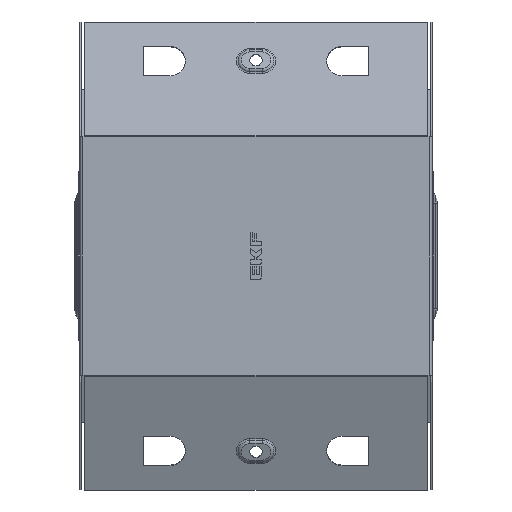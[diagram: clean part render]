
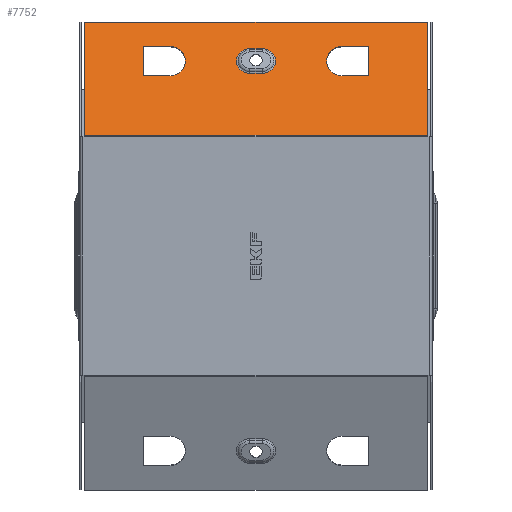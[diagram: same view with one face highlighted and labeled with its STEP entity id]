
A CAD part, front view. The second image highlights one B-rep face of the part: STEP entity #7752.
In plain terms, the highlighted planar face has unit normal (0, -0.924, 0.383).
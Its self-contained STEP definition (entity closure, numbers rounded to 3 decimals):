
#31 = AXIS2_PLACEMENT_3D ( 'NONE', #6695, #9977, #11104 ) ;
#250 = FACE_BOUND ( 'NONE', #3976, .T. ) ;
#313 = VECTOR ( 'NONE', #9202, 1000. ) ;
#352 = VERTEX_POINT ( 'NONE', #10188 ) ;
#440 = EDGE_CURVE ( 'NONE', #13589, #6767, #4740, .T. ) ;
#492 = CARTESIAN_POINT ( 'NONE',  ( 49., -86.629, 102.286 ) ) ;
#763 = EDGE_CURVE ( 'NONE', #11737, #6292, #13881, .T. ) ;
#840 = AXIS2_PLACEMENT_3D ( 'NONE', #4606, #1292, #11478 ) ;
#1094 = EDGE_CURVE ( 'NONE', #5976, #12857, #8048, .T. ) ;
#1157 = CIRCLE ( 'NONE', #840, 7.598 ) ;
#1292 = DIRECTION ( 'NONE',  ( 0., 0.924, -0.383 ) ) ;
#1329 = VERTEX_POINT ( 'NONE', #7681 ) ;
#1405 = VERTEX_POINT ( 'NONE', #10185 ) ;
#1477 = FACE_BOUND ( 'NONE', #14529, .T. ) ;
#1623 = CARTESIAN_POINT ( 'NONE',  ( -3.5, -86.093, 103.581 ) ) ;
#1688 = DIRECTION ( 'NONE',  ( -1., 0., 0. ) ) ;
#1727 = VECTOR ( 'NONE', #10526, 1000. ) ;
#1765 = EDGE_CURVE ( 'NONE', #10249, #13307, #1157, .T. ) ;
#1845 = VECTOR ( 'NONE', #5538, 1000. ) ;
#1861 = VECTOR ( 'NONE', #3871, 1000. ) ;
#1866 = AXIS2_PLACEMENT_3D ( 'NONE', #11805, #14055, #14014 ) ;
#1907 = CARTESIAN_POINT ( 'NONE',  ( 97.299, -100.663, 68.406 ) ) ;
#2024 = CARTESIAN_POINT ( 'NONE',  ( -64., -79.741, 118.916 ) ) ;
#2111 = ORIENTED_EDGE ( 'NONE', *, *, #7702, .T. ) ;
#2123 = DIRECTION ( 'NONE',  ( -1., 0., 0. ) ) ;
#2456 = CARTESIAN_POINT ( 'NONE',  ( 64., -79.741, 118.916 ) ) ;
#2549 = CARTESIAN_POINT ( 'NONE',  ( -64., -79.741, 118.916 ) ) ;
#3084 = EDGE_CURVE ( 'NONE', #352, #10249, #8025, .T. ) ;
#3211 = VECTOR ( 'NONE', #9547, 1000. ) ;
#3231 = CARTESIAN_POINT ( 'NONE',  ( -49., -79.741, 118.916 ) ) ;
#3474 = ORIENTED_EDGE ( 'NONE', *, *, #7682, .T. ) ;
#3683 = VERTEX_POINT ( 'NONE', #2024 ) ;
#3871 = DIRECTION ( 'NONE',  ( -1., 0., 0. ) ) ;
#3907 = LINE ( 'NONE', #4664, #14533 ) ;
#3976 = EDGE_LOOP ( 'NONE', ( #4292, #14145, #7901, #7553 ) ) ;
#4223 = DIRECTION ( 'NONE',  ( 0., 0.924, -0.383 ) ) ;
#4292 = ORIENTED_EDGE ( 'NONE', *, *, #12002, .T. ) ;
#4342 = CARTESIAN_POINT ( 'NONE',  ( 98.2, -74.001, 132.774 ) ) ;
#4394 = CARTESIAN_POINT ( 'NONE',  ( 49., -79.741, 118.916 ) ) ;
#4403 = LINE ( 'NONE', #5396, #10084 ) ;
#4606 = CARTESIAN_POINT ( 'NONE',  ( -3.5, -83.185, 110.601 ) ) ;
#4664 = CARTESIAN_POINT ( 'NONE',  ( 3.5, -80.277, 117.621 ) ) ;
#4740 = LINE ( 'NONE', #4846, #1727 ) ;
#4846 = CARTESIAN_POINT ( 'NONE',  ( 64., -79.741, 118.916 ) ) ;
#5015 = CARTESIAN_POINT ( 'NONE',  ( 3.5, -86.093, 103.581 ) ) ;
#5019 = VECTOR ( 'NONE', #1688, 1000. ) ;
#5037 = FACE_BOUND ( 'NONE', #8479, .T. ) ;
#5157 = CARTESIAN_POINT ( 'NONE',  ( 97.299, -74.001, 132.774 ) ) ;
#5219 = VECTOR ( 'NONE', #6571, 1000. ) ;
#5319 = DIRECTION ( 'NONE',  ( 0., 0.383, 0.924 ) ) ;
#5396 = CARTESIAN_POINT ( 'NONE',  ( 97.299, -100.864, 67.921 ) ) ;
#5488 = VERTEX_POINT ( 'NONE', #3231 ) ;
#5538 = DIRECTION ( 'NONE',  ( 1., 0., 0. ) ) ;
#5706 = LINE ( 'NONE', #9572, #13848 ) ;
#5922 = DIRECTION ( 'NONE',  ( 0., -0.383, -0.924 ) ) ;
#5976 = VERTEX_POINT ( 'NONE', #1907 ) ;
#6034 = CARTESIAN_POINT ( 'NONE',  ( -64., -86.629, 102.286 ) ) ;
#6245 = CARTESIAN_POINT ( 'NONE',  ( 64., -86.629, 102.286 ) ) ;
#6292 = VERTEX_POINT ( 'NONE', #11110 ) ;
#6571 = DIRECTION ( 'NONE',  ( 1., 0., 0. ) ) ;
#6582 = EDGE_LOOP ( 'NONE', ( #11719, #14279, #11836, #11752 ) ) ;
#6695 = CARTESIAN_POINT ( 'NONE',  ( 98.2, -100.8, 68.075 ) ) ;
#6767 = VERTEX_POINT ( 'NONE', #6245 ) ;
#7126 = CIRCLE ( 'NONE', #12789, 9. ) ;
#7127 = CARTESIAN_POINT ( 'NONE',  ( 3.5, -80.277, 117.621 ) ) ;
#7234 = DIRECTION ( 'NONE',  ( -1., 0., 0. ) ) ;
#7350 = EDGE_CURVE ( 'NONE', #1405, #10274, #14204, .T. ) ;
#7402 = VERTEX_POINT ( 'NONE', #492 ) ;
#7471 = CIRCLE ( 'NONE', #12061, 9. ) ;
#7553 = ORIENTED_EDGE ( 'NONE', *, *, #1765, .T. ) ;
#7681 = CARTESIAN_POINT ( 'NONE',  ( 49., -79.741, 118.916 ) ) ;
#7682 = EDGE_CURVE ( 'NONE', #1329, #13589, #13368, .T. ) ;
#7702 = EDGE_CURVE ( 'NONE', #3683, #5488, #9648, .T. ) ;
#7752 = ADVANCED_FACE ( 'NONE', ( #5037, #1477, #250, #10516 ), #10557, .F. ) ;
#7884 = ORIENTED_EDGE ( 'NONE', *, *, #11460, .T. ) ;
#7901 = ORIENTED_EDGE ( 'NONE', *, *, #3084, .T. ) ;
#8025 = LINE ( 'NONE', #5015, #5019 ) ;
#8048 = LINE ( 'NONE', #14021, #1861 ) ;
#8479 = EDGE_LOOP ( 'NONE', ( #12223, #7884, #3474, #12527 ) ) ;
#8538 = ORIENTED_EDGE ( 'NONE', *, *, #7350, .T. ) ;
#8636 = CARTESIAN_POINT ( 'NONE',  ( -97.299, -100.663, 68.406 ) ) ;
#8786 = EDGE_CURVE ( 'NONE', #5488, #1405, #7126, .T. ) ;
#8807 = LINE ( 'NONE', #9289, #313 ) ;
#9041 = VECTOR ( 'NONE', #2123, 1000. ) ;
#9153 = EDGE_CURVE ( 'NONE', #12187, #352, #12632, .T. ) ;
#9202 = DIRECTION ( 'NONE',  ( 0., -0.383, -0.924 ) ) ;
#9289 = CARTESIAN_POINT ( 'NONE',  ( -97.299, -100.8, 68.075 ) ) ;
#9547 = DIRECTION ( 'NONE',  ( -1., 0., 0. ) ) ;
#9572 = CARTESIAN_POINT ( 'NONE',  ( 49., -86.629, 102.286 ) ) ;
#9648 = LINE ( 'NONE', #10052, #1845 ) ;
#9929 = VECTOR ( 'NONE', #13559, 1000. ) ;
#9977 = DIRECTION ( 'NONE',  ( 0., 0.924, -0.383 ) ) ;
#10052 = CARTESIAN_POINT ( 'NONE',  ( -49., -79.741, 118.916 ) ) ;
#10084 = VECTOR ( 'NONE', #11083, 1000. ) ;
#10185 = CARTESIAN_POINT ( 'NONE',  ( -49., -86.629, 102.286 ) ) ;
#10188 = CARTESIAN_POINT ( 'NONE',  ( 3.5, -86.093, 103.581 ) ) ;
#10249 = VERTEX_POINT ( 'NONE', #1623 ) ;
#10274 = VERTEX_POINT ( 'NONE', #6034 ) ;
#10490 = CARTESIAN_POINT ( 'NONE',  ( -3.5, -80.277, 117.621 ) ) ;
#10516 = FACE_OUTER_BOUND ( 'NONE', #6582, .T. ) ;
#10526 = DIRECTION ( 'NONE',  ( 0., -0.383, -0.924 ) ) ;
#10557 = PLANE ( 'NONE',  #31 ) ;
#10629 = EDGE_CURVE ( 'NONE', #10274, #3683, #12594, .T. ) ;
#11008 = CARTESIAN_POINT ( 'NONE',  ( 49., -83.185, 110.601 ) ) ;
#11083 = DIRECTION ( 'NONE',  ( 0., 0.383, 0.924 ) ) ;
#11104 = DIRECTION ( 'NONE',  ( 0., 0.383, 0.924 ) ) ;
#11110 = CARTESIAN_POINT ( 'NONE',  ( -97.299, -74.001, 132.774 ) ) ;
#11289 = EDGE_CURVE ( 'NONE', #6767, #7402, #5706, .T. ) ;
#11397 = DIRECTION ( 'NONE',  ( 1., 0., 0. ) ) ;
#11460 = EDGE_CURVE ( 'NONE', #7402, #1329, #7471, .T. ) ;
#11478 = DIRECTION ( 'NONE',  ( 0., 0.383, 0.924 ) ) ;
#11514 = CARTESIAN_POINT ( 'NONE',  ( -49., -83.185, 110.601 ) ) ;
#11719 = ORIENTED_EDGE ( 'NONE', *, *, #13584, .T. ) ;
#11737 = VERTEX_POINT ( 'NONE', #5157 ) ;
#11752 = ORIENTED_EDGE ( 'NONE', *, *, #763, .T. ) ;
#11805 = CARTESIAN_POINT ( 'NONE',  ( 3.5, -83.185, 110.601 ) ) ;
#11836 = ORIENTED_EDGE ( 'NONE', *, *, #13437, .T. ) ;
#12002 = EDGE_CURVE ( 'NONE', #13307, #12187, #3907, .T. ) ;
#12061 = AXIS2_PLACEMENT_3D ( 'NONE', #11008, #4223, #5319 ) ;
#12187 = VERTEX_POINT ( 'NONE', #7127 ) ;
#12223 = ORIENTED_EDGE ( 'NONE', *, *, #11289, .T. ) ;
#12527 = ORIENTED_EDGE ( 'NONE', *, *, #440, .T. ) ;
#12594 = LINE ( 'NONE', #2549, #9929 ) ;
#12632 = CIRCLE ( 'NONE', #1866, 7.598 ) ;
#12713 = DIRECTION ( 'NONE',  ( 0., 0.924, -0.383 ) ) ;
#12789 = AXIS2_PLACEMENT_3D ( 'NONE', #11514, #12713, #5922 ) ;
#12857 = VERTEX_POINT ( 'NONE', #8636 ) ;
#13307 = VERTEX_POINT ( 'NONE', #10490 ) ;
#13368 = LINE ( 'NONE', #4394, #5219 ) ;
#13437 = EDGE_CURVE ( 'NONE', #5976, #11737, #4403, .T. ) ;
#13559 = DIRECTION ( 'NONE',  ( 0., 0.383, 0.924 ) ) ;
#13584 = EDGE_CURVE ( 'NONE', #6292, #12857, #8807, .T. ) ;
#13589 = VERTEX_POINT ( 'NONE', #2456 ) ;
#13848 = VECTOR ( 'NONE', #7234, 1000. ) ;
#13881 = LINE ( 'NONE', #4342, #9041 ) ;
#13911 = CARTESIAN_POINT ( 'NONE',  ( -49., -86.629, 102.286 ) ) ;
#14014 = DIRECTION ( 'NONE',  ( 0., 0.383, 0.924 ) ) ;
#14021 = CARTESIAN_POINT ( 'NONE',  ( 98.2, -100.663, 68.406 ) ) ;
#14055 = DIRECTION ( 'NONE',  ( 0., 0.924, -0.383 ) ) ;
#14145 = ORIENTED_EDGE ( 'NONE', *, *, #9153, .T. ) ;
#14204 = LINE ( 'NONE', #13911, #3211 ) ;
#14279 = ORIENTED_EDGE ( 'NONE', *, *, #1094, .F. ) ;
#14302 = ORIENTED_EDGE ( 'NONE', *, *, #8786, .T. ) ;
#14529 = EDGE_LOOP ( 'NONE', ( #14654, #2111, #14302, #8538 ) ) ;
#14533 = VECTOR ( 'NONE', #11397, 1000. ) ;
#14654 = ORIENTED_EDGE ( 'NONE', *, *, #10629, .T. ) ;
